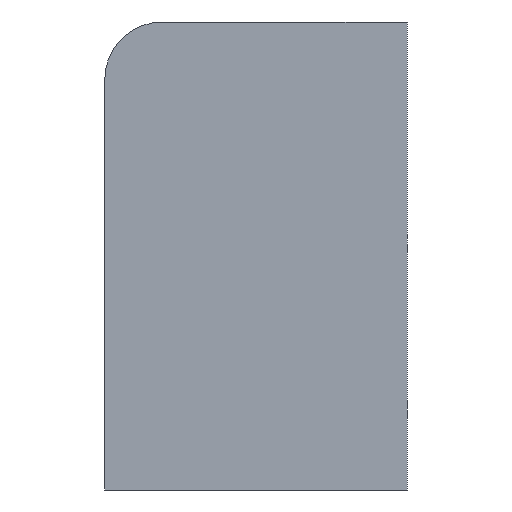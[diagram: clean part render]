
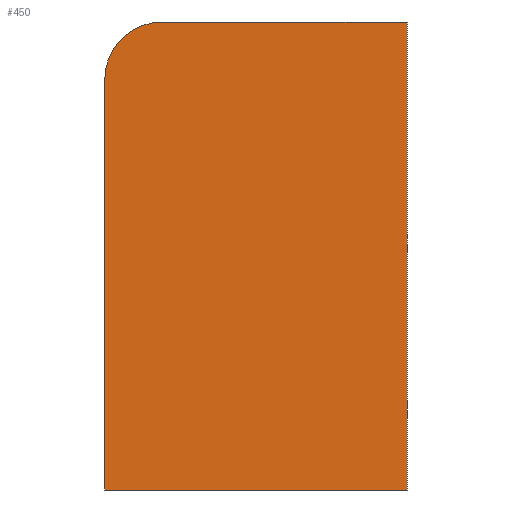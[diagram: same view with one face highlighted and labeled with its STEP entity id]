
A CAD part, left-side view. The second image highlights one B-rep face of the part: STEP entity #450.
In plain terms, the highlighted planar face has unit normal (-1, 0, 0).
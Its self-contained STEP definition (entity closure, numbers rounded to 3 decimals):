
#233=CARTESIAN_POINT('Vertex',(0.,0.,130.)) ;
#236=CARTESIAN_POINT('Line Origine',(0.,0.,65.)) ;
#240=CARTESIAN_POINT('Vertex',(0.,0.,0.)) ;
#329=CARTESIAN_POINT('Vertex',(0.,84.,0.)) ;
#332=CARTESIAN_POINT('Line Origine',(0.,84.,57.)) ;
#336=CARTESIAN_POINT('Vertex',(0.,84.,114.)) ;
#396=CARTESIAN_POINT('Line Origine',(0.,42.,0.)) ;
#414=CARTESIAN_POINT('Axis2P3D Location',(0.,68.,114.)) ;
#418=CARTESIAN_POINT('Vertex',(0.,68.,130.)) ;
#433=CARTESIAN_POINT('Axis2P3D Location',(0.,84.,0.)) ;
#438=CARTESIAN_POINT('Line Origine',(0.,34.,130.)) ;
#237=DIRECTION('Vector Direction',(0.,0.,1.)) ;
#333=DIRECTION('Vector Direction',(0.,0.,1.)) ;
#397=DIRECTION('Vector Direction',(0.,-1.,0.)) ;
#415=DIRECTION('Axis2P3D Direction',(-1.,0.,0.)) ;
#434=DIRECTION('Axis2P3D Direction',(-1.,0.,0.)) ;
#435=DIRECTION('Axis2P3D XDirection',(0.,-1.,0.)) ;
#439=DIRECTION('Vector Direction',(0.,1.,0.)) ;
#416=AXIS2_PLACEMENT_3D('Circle Axis2P3D',#414,#415,$) ;
#436=AXIS2_PLACEMENT_3D('Plane Axis2P3D',#433,#434,#435) ;
#444=ORIENTED_EDGE('',*,*,#242,.T.) ;
#445=ORIENTED_EDGE('',*,*,#442,.T.) ;
#446=ORIENTED_EDGE('',*,*,#420,.T.) ;
#447=ORIENTED_EDGE('',*,*,#338,.F.) ;
#448=ORIENTED_EDGE('',*,*,#400,.T.) ;
#238=VECTOR('Line Direction',#237,1.) ;
#334=VECTOR('Line Direction',#333,1.) ;
#398=VECTOR('Line Direction',#397,1.) ;
#440=VECTOR('Line Direction',#439,1.) ;
#450=ADVANCED_FACE('PartBody',(#449),#437,.T.) ;
#417=CIRCLE('generated circle',#416,16.) ;
#242=EDGE_CURVE('',#241,#234,#239,.T.) ;
#338=EDGE_CURVE('',#330,#337,#335,.T.) ;
#400=EDGE_CURVE('',#330,#241,#399,.T.) ;
#420=EDGE_CURVE('',#419,#337,#417,.T.) ;
#442=EDGE_CURVE('',#234,#419,#441,.T.) ;
#443=EDGE_LOOP('',(#444,#445,#446,#447,#448)) ;
#449=FACE_OUTER_BOUND('',#443,.T.) ;
#239=LINE('Line',#236,#238) ;
#335=LINE('Line',#332,#334) ;
#399=LINE('Line',#396,#398) ;
#441=LINE('Line',#438,#440) ;
#437=PLANE('',#436) ;
#234=VERTEX_POINT('',#233) ;
#241=VERTEX_POINT('',#240) ;
#330=VERTEX_POINT('',#329) ;
#337=VERTEX_POINT('',#336) ;
#419=VERTEX_POINT('',#418) ;
